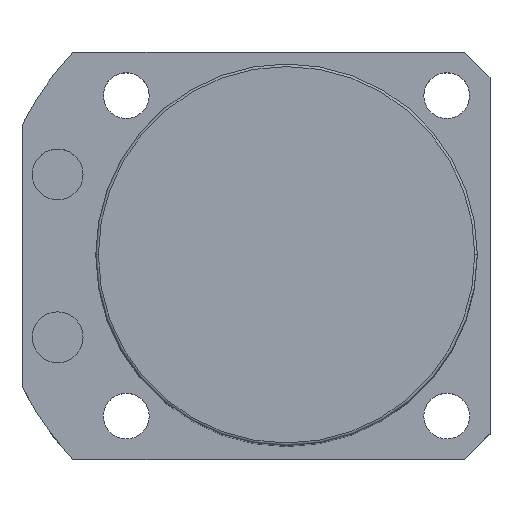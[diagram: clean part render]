
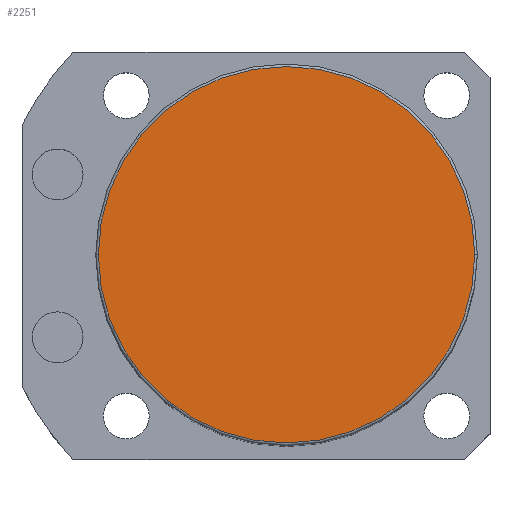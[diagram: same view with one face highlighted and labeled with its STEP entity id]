
A CAD part, top view. The second image highlights one B-rep face of the part: STEP entity #2251.
In plain terms, the highlighted planar face has unit normal (0, 0, 1).
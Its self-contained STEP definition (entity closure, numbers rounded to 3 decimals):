
#6 = CARTESIAN_POINT ( 'NONE',  ( 0., 0., 140.5 ) ) ;
#17 = DIRECTION ( 'NONE',  ( 0., 0., 1. ) ) ;
#209 = AXIS2_PLACEMENT_3D ( 'NONE', #6, #17, #1552 ) ;
#249 = DIRECTION ( 'NONE',  ( 0., 0., 1. ) ) ;
#435 = DIRECTION ( 'NONE',  ( 0., 0., 1. ) ) ;
#495 = CARTESIAN_POINT ( 'NONE',  ( 37., 0., 140.5 ) ) ;
#509 = AXIS2_PLACEMENT_3D ( 'NONE', #1564, #249, #2646 ) ;
#818 = DIRECTION ( 'NONE',  ( 1., 0., 0. ) ) ;
#1035 = ORIENTED_EDGE ( 'NONE', *, *, #2188, .T. ) ;
#1126 = EDGE_LOOP ( 'NONE', ( #1035, #2445 ) ) ;
#1282 = FACE_OUTER_BOUND ( 'NONE', #1126, .T. ) ;
#1486 = CIRCLE ( 'NONE', #209, 37. ) ;
#1552 = DIRECTION ( 'NONE',  ( 1., 0., 0. ) ) ;
#1564 = CARTESIAN_POINT ( 'NONE',  ( 0., 0., 140.5 ) ) ;
#1840 = AXIS2_PLACEMENT_3D ( 'NONE', #2823, #435, #818 ) ;
#1931 = VERTEX_POINT ( 'NONE', #2078 ) ;
#2078 = CARTESIAN_POINT ( 'NONE',  ( -37., 0., 140.5 ) ) ;
#2188 = EDGE_CURVE ( 'NONE', #2464, #1931, #2303, .T. ) ;
#2251 = ADVANCED_FACE ( 'NONE', ( #1282 ), #2447, .T. ) ;
#2273 = EDGE_CURVE ( 'NONE', #1931, #2464, #1486, .T. ) ;
#2303 = CIRCLE ( 'NONE', #1840, 37. ) ;
#2445 = ORIENTED_EDGE ( 'NONE', *, *, #2273, .T. ) ;
#2447 = PLANE ( 'NONE',  #509 ) ;
#2464 = VERTEX_POINT ( 'NONE', #495 ) ;
#2646 = DIRECTION ( 'NONE',  ( 1., 0., 0. ) ) ;
#2823 = CARTESIAN_POINT ( 'NONE',  ( 0., 0., 140.5 ) ) ;
